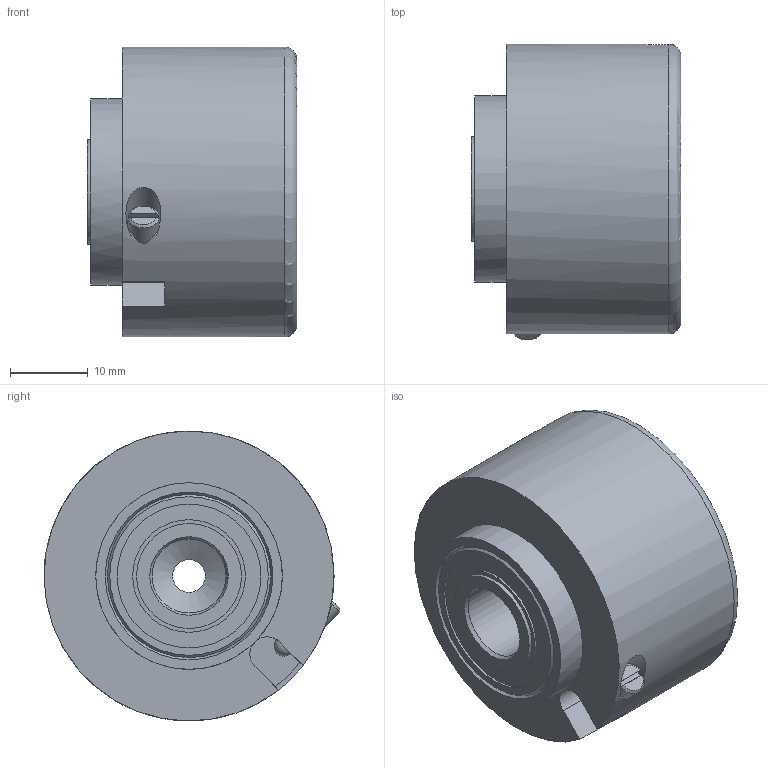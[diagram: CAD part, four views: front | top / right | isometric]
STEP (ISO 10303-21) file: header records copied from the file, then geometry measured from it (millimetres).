
FILE_DESCRIPTION( ( 'Unknown' ), '1' );
FILE_NAME( 'C:/Users/malfermoa/Desktop/step/EF_36K_albero 9,52.stp', 'Unknown', ( 'Unknown' ), ( 'Unknown' ), 'PSStep 15.0.49', 'Unknown', ' ' );
FILE_SCHEMA( ( 'AUTOMOTIVE_DESIGN { 1 0 10303 214 1 1 1 1 }' ) );
Length unit declared in the file: millimetre
Products named in the file (1): 41340067A1
Bounding box: 27 x 38.06 x 37.29 mm (x, y, z)
Volume: 11398.1 mm3; surface area: 11214.2 mm2
Topology: 1 solids, 9 shells, 137 faces, 311 edges, 200 vertices
Faces by surface type: cylinder 52, plane 45, cone 33, torus 6, sphere 1
Full cylindrical faces by diameter (mm): 1.5 x2, 2 x3, 2.013 x2, 3 x1, 3.242 x1, 3.459 x3, 4 x1, 4.2 x1, 7 x1, 8.2 x1, 9 x1, 9.52 x1, 10.8 x2, 12 x3, 13.5 x1, 14 x1, 14.5 x4, 15.5 x1, 18.5 x4, 19 x1, 21 x3, 24 x1, 36.1 x1, 37.3 x1
Entity records: 4512 total; most frequent: CARTESIAN_POINT 783, DIRECTION 575, ORIENTED_EDGE 384, AXIS2_PLACEMENT_3D 267, EDGE_LOOP 237, EDGE_CURVE 192, FACE_OUTER_BOUND 184, VERTEX_POINT 172
